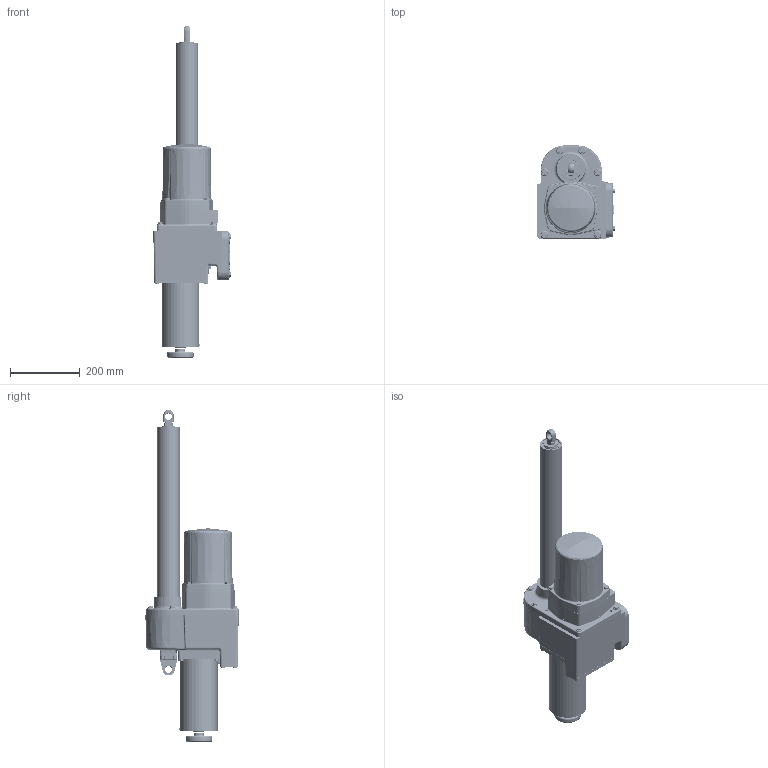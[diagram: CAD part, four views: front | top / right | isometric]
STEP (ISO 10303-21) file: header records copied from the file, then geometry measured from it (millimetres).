
FILE_DESCRIPTION (( 'STEP AP203' ), '1' );
FILE_NAME ('18-4217-01_18_solid.STEP', '2011-07-08T13:01:39', ( '' ), ( '' ), 'SwSTEP 2.0', 'SolidWorks 2009', '' );
FILE_SCHEMA (( 'CONFIG_CONTROL_DESIGN' ));
Length unit declared in the file: inch
Products named in the file (1): 18-4217-01_18_solid
Bounding box: 222.58 x 268.45 x 954.3 mm (x, y, z)
Volume: 5601182 mm3; surface area: 1584721.8 mm2
Topology: 52 solids, 52 shells, 4052 faces, 9669 edges, 5651 vertices
Faces by surface type: cylinder 1295, plane 927, cone 792, torus 461, bspline 425, sphere 152
Entity records: 179884 total; most frequent: CARTESIAN_POINT 88673, DIRECTION 19619, ORIENTED_EDGE 18872, EDGE_CURVE 9436, AXIS2_PLACEMENT_3D 8087, VERTEX_POINT 5645, CIRCLE 4459, EDGE_LOOP 4425
